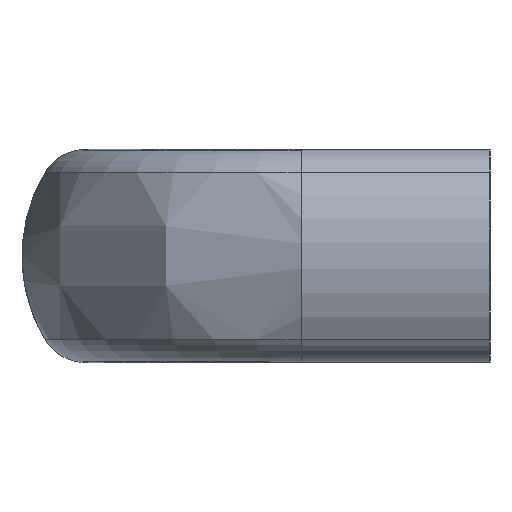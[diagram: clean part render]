
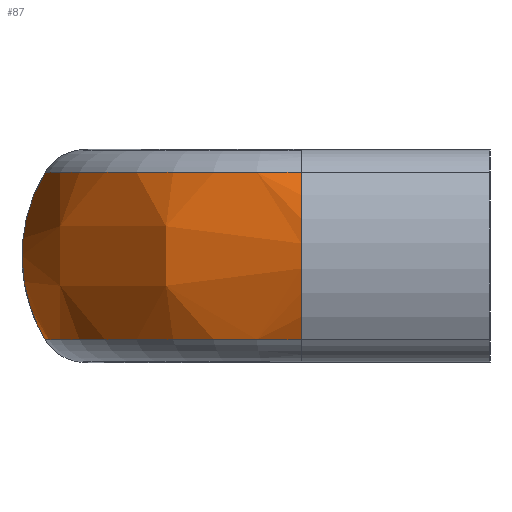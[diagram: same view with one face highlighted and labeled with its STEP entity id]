
A CAD part, left-side view. The second image highlights one B-rep face of the part: STEP entity #87.
In plain terms, the highlighted free-form (B-spline) face has degree [3, 3] with [4, 4] control points.
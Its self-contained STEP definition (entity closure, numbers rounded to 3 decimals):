
#87 = ADVANCED_FACE( '', ( #155 ), #156, .T. );
#155 = FACE_OUTER_BOUND( '', #265, .T. );
#156 = ( BOUNDED_SURFACE(  )B_SPLINE_SURFACE( 3, 3, ( ( #268, #269, #270, #271 ), ( #272, #273, #274, #275 ), ( #276, #277, #278, #279 ), ( #280, #281, #282, #283 ) ), .UNSPECIFIED., .F., .F., .F. )B_SPLINE_SURFACE_WITH_KNOTS( ( 4, 4 ), ( 4, 4 ), ( 1.571, 3.142 ), ( -0.537, 0.537 ), .UNSPECIFIED. )GEOMETRIC_REPRESENTATION_ITEM(  )RATIONAL_B_SPLINE_SURFACE( ( ( 1., 0.805, 0.805, 1. ), ( 0.906, 0.729, 0.729, 0.906 ), ( 0.906, 0.729, 0.729, 0.906 ), ( 1., 0.805, 0.805, 1. ) ) )REPRESENTATION_ITEM( '' )SURFACE(  ) );
#265 = EDGE_LOOP( '', ( #477, #478, #479, #480, #481 ) );
#268 = CARTESIAN_POINT( '', ( -174.5, 54.189, 10.177 ) );
#269 = CARTESIAN_POINT( '', ( -192.77, 54.189, 10.177 ) );
#270 = CARTESIAN_POINT( '', ( -205.689, 41.27, 10.177 ) );
#271 = CARTESIAN_POINT( '', ( -205.689, 23., 10.177 ) );
#272 = CARTESIAN_POINT( '', ( -174.5, 58.02, 3.744 ) );
#273 = CARTESIAN_POINT( '', ( -195.014, 58.02, 3.744 ) );
#274 = CARTESIAN_POINT( '', ( -209.52, 43.514, 3.744 ) );
#275 = CARTESIAN_POINT( '', ( -209.52, 23., 3.744 ) );
#276 = CARTESIAN_POINT( '', ( -174.5, 58.02, -3.744 ) );
#277 = CARTESIAN_POINT( '', ( -195.014, 58.02, -3.744 ) );
#278 = CARTESIAN_POINT( '', ( -209.52, 43.514, -3.744 ) );
#279 = CARTESIAN_POINT( '', ( -209.52, 23., -3.744 ) );
#280 = CARTESIAN_POINT( '', ( -174.5, 54.189, -10.177 ) );
#281 = CARTESIAN_POINT( '', ( -192.77, 54.189, -10.177 ) );
#282 = CARTESIAN_POINT( '', ( -205.689, 41.27, -10.177 ) );
#283 = CARTESIAN_POINT( '', ( -205.689, 23., -10.177 ) );
#477 = ORIENTED_EDGE( '', *, *, #834, .T. );
#478 = ORIENTED_EDGE( '', *, *, #835, .F. );
#479 = ORIENTED_EDGE( '', *, *, #836, .F. );
#480 = ORIENTED_EDGE( '', *, *, #806, .T. );
#481 = ORIENTED_EDGE( '', *, *, #805, .T. );
#805 = EDGE_CURVE( '', #941, #942, #943, .T. );
#806 = EDGE_CURVE( '', #944, #941, #945, .T. );
#834 = EDGE_CURVE( '', #942, #994, #996, .T. );
#835 = EDGE_CURVE( '', #997, #994, #998, .T. );
#836 = EDGE_CURVE( '', #944, #997, #999, .T. );
#941 = VERTEX_POINT( '', #1149 );
#942 = VERTEX_POINT( '', #1150 );
#943 = B_SPLINE_CURVE_WITH_KNOTS( '', 3, ( #1151, #1152, #1153, #1154, #1155, #1156 ), .UNSPECIFIED., .F., .F., ( 4, 2, 4 ), ( 0., 0.5, 1. ), .UNSPECIFIED. );
#944 = VERTEX_POINT( '', #1157 );
#945 = B_SPLINE_CURVE_WITH_KNOTS( '', 3, ( #1158, #1159, #1160, #1161, #1162, #1163 ), .UNSPECIFIED., .F., .F., ( 4, 2, 4 ), ( 0., 0.5, 1. ), .UNSPECIFIED. );
#994 = VERTEX_POINT( '', #1246 );
#996 = CIRCLE( '', #1248, 31.189 );
#997 = VERTEX_POINT( '', #1249 );
#998 = CIRCLE( '', #1250, 19.889 );
#999 = CIRCLE( '', #1251, 31.189 );
#1149 = CARTESIAN_POINT( '', ( -174.5, 56.995, 0.043 ) );
#1150 = CARTESIAN_POINT( '', ( -174.5, 54.189, -10.184 ) );
#1151 = CARTESIAN_POINT( '', ( -174.5, 56.99, 0.043 ) );
#1152 = CARTESIAN_POINT( '', ( -174.5, 56.994, -1.745 ) );
#1153 = CARTESIAN_POINT( '', ( -174.5, 56.755, -3.533 ) );
#1154 = CARTESIAN_POINT( '', ( -174.5, 55.81, -6.981 ) );
#1155 = CARTESIAN_POINT( '', ( -174.5, 55.104, -8.641 ) );
#1156 = CARTESIAN_POINT( '', ( -174.5, 54.189, -10.177 ) );
#1157 = CARTESIAN_POINT( '', ( -174.5, 54.188, 10.185 ) );
#1158 = CARTESIAN_POINT( '', ( -174.5, 54.189, 10.177 ) );
#1159 = CARTESIAN_POINT( '', ( -174.5, 55.097, 8.653 ) );
#1160 = CARTESIAN_POINT( '', ( -174.5, 55.799, 7.008 ) );
#1161 = CARTESIAN_POINT( '', ( -174.5, 56.744, 3.589 ) );
#1162 = CARTESIAN_POINT( '', ( -174.5, 56.986, 1.816 ) );
#1163 = CARTESIAN_POINT( '', ( -174.5, 56.99, 0.043 ) );
#1246 = CARTESIAN_POINT( '', ( -205.689, 23., -10.177 ) );
#1248 = AXIS2_PLACEMENT_3D( '', #1481, #1482, #1483 );
#1249 = CARTESIAN_POINT( '', ( -205.689, 23., 10.177 ) );
#1250 = AXIS2_PLACEMENT_3D( '', #1484, #1485, #1486 );
#1251 = AXIS2_PLACEMENT_3D( '', #1487, #1488, #1489 );
#1481 = CARTESIAN_POINT( '', ( -174.5, 23., -10.177 ) );
#1482 = DIRECTION( '', ( 0., 0., 1. ) );
#1483 = DIRECTION( '', ( 1., 0., 0. ) );
#1484 = CARTESIAN_POINT( '', ( -188.601, 23., 0. ) );
#1485 = DIRECTION( '', ( 0., -1., 0. ) );
#1486 = DIRECTION( '', ( 0., 0., 1. ) );
#1487 = CARTESIAN_POINT( '', ( -174.5, 23., 10.177 ) );
#1488 = DIRECTION( '', ( 0., 0., 1. ) );
#1489 = DIRECTION( '', ( 1., 0., 0. ) );
